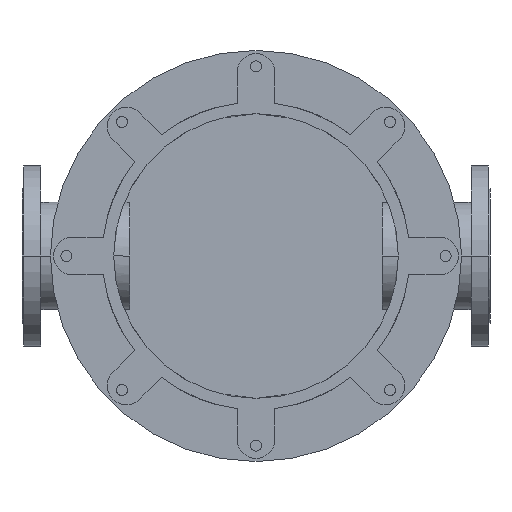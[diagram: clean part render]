
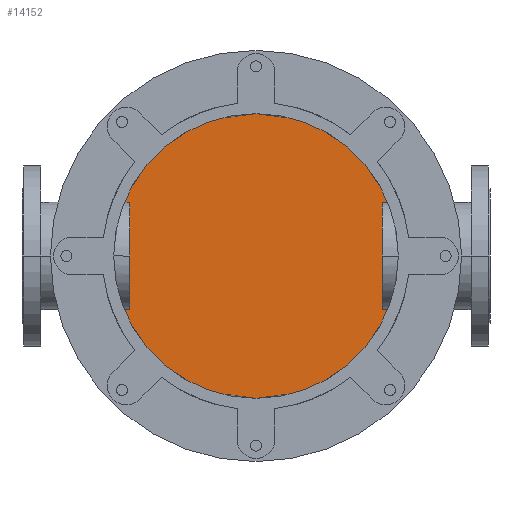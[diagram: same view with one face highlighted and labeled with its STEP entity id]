
A CAD part, front view. The second image highlights one B-rep face of the part: STEP entity #14152.
In plain terms, the highlighted planar face has unit normal (0, -1, 0).
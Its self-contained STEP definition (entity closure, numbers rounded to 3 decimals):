
#2800=CARTESIAN_POINT('',(0.,836.,0.));
#2801=DIRECTION('',(0.,-1.,0.));
#2802=DIRECTION('',(0.,0.,1.));
#2803=AXIS2_PLACEMENT_3D('',#2800,#2801,#2802);
#2927=CARTESIAN_POINT('',(0.,836.,0.));
#2928=DIRECTION('',(0.,-1.,0.));
#2929=DIRECTION('',(0.,0.,-1.));
#2930=AXIS2_PLACEMENT_3D('',#2927,#2928,#2929);
#9177=CARTESIAN_POINT('',(0.,836.,240.));
#9178=CARTESIAN_POINT('',(0.,836.,-240.));
#9179=VERTEX_POINT('',#9177);
#9180=VERTEX_POINT('',#9178);
#14142=CARTESIAN_POINT('',(0.,836.,0.));
#14143=DIRECTION('',(0.,1.,0.));
#14144=DIRECTION('',(0.,0.,-1.));
#14145=AXIS2_PLACEMENT_3D('',#14142,#14143,#14144);
#14146=PLANE('',#14145);
#14147=ORIENTED_EDGE('',*,*,#14126,.F.);
#14149=ORIENTED_EDGE('',*,*,#14148,.F.);
#14150=EDGE_LOOP('',(#14147,#14149));
#14151=FACE_OUTER_BOUND('',#14150,.F.);
#14152=ADVANCED_FACE('',(#14151),#14146,.F.);
#2804=CIRCLE('',#2803,240.);
#2931=CIRCLE('',#2930,240.);
#14126=EDGE_CURVE('',#9179,#9180,#2804,.T.);
#14148=EDGE_CURVE('',#9180,#9179,#2931,.T.);
